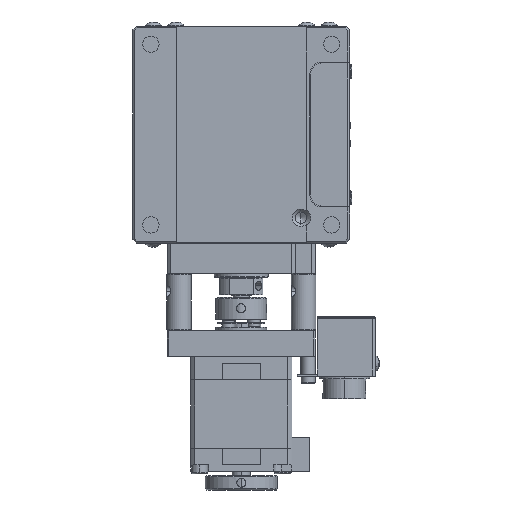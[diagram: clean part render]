
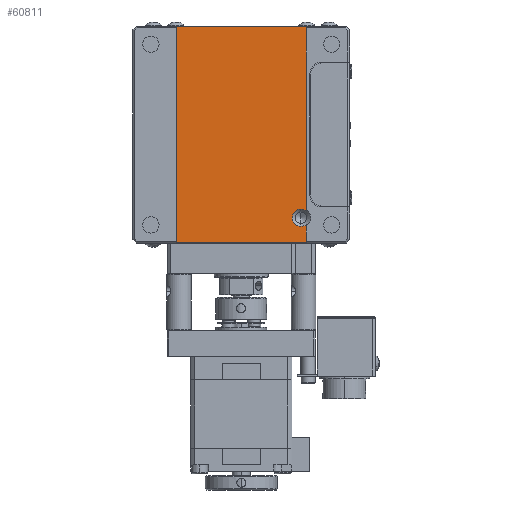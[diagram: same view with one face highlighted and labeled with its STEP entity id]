
A CAD part, front view. The second image highlights one B-rep face of the part: STEP entity #60811.
In plain terms, the highlighted planar face has unit normal (0, -1, 0).
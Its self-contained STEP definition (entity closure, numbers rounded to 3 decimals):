
#645 = CARTESIAN_POINT ( 'NONE',  ( 19.849, -13.358, 30. ) ) ;
#1823 = CARTESIAN_POINT ( 'NONE',  ( 18.349, -13.358, 39.4 ) ) ;
#2114 = EDGE_CURVE ( 'NONE', #61151, #28575, #63379, .T. ) ;
#3094 = DIRECTION ( 'NONE',  ( 0., 0., 1. ) ) ;
#3824 = LINE ( 'NONE', #63161, #31823 ) ;
#5888 = LINE ( 'NONE', #645, #33738 ) ;
#6183 = DIRECTION ( 'NONE',  ( 0., 1., 0. ) ) ;
#7289 = VERTEX_POINT ( 'NONE', #36541 ) ;
#8016 = CARTESIAN_POINT ( 'NONE',  ( 19.849, -13.358, 30. ) ) ;
#8457 = DIRECTION ( 'NONE',  ( 0., 1., 0. ) ) ;
#8858 = VECTOR ( 'NONE', #19956, 1000. ) ;
#11006 = ORIENTED_EDGE ( 'NONE', *, *, #24242, .T. ) ;
#11281 = EDGE_LOOP ( 'NONE', ( #61070, #29547, #23109, #56337, #58346, #44224, #64355, #11006 ) ) ;
#11911 = CARTESIAN_POINT ( 'NONE',  ( 19.849, -13.358, 30.2 ) ) ;
#14190 = FACE_OUTER_BOUND ( 'NONE', #11281, .T. ) ;
#14346 = LINE ( 'NONE', #36522, #8858 ) ;
#15208 = CARTESIAN_POINT ( 'NONE',  ( 18.349, -13.358, 37. ) ) ;
#16899 = CARTESIAN_POINT ( 'NONE',  ( 19.849, -13.358, 35.127 ) ) ;
#17882 = VERTEX_POINT ( 'NONE', #21751 ) ;
#19956 = DIRECTION ( 'NONE',  ( 0., 0., -1. ) ) ;
#20379 = CIRCLE ( 'NONE', #47540, 2.4 ) ;
#21751 = CARTESIAN_POINT ( 'NONE',  ( 19.849, -13.358, 89.8 ) ) ;
#23109 = ORIENTED_EDGE ( 'NONE', *, *, #36711, .T. ) ;
#24242 = EDGE_CURVE ( 'NONE', #35060, #7289, #14346, .T. ) ;
#24689 = DIRECTION ( 'NONE',  ( 0., 0., -1. ) ) ;
#26491 = AXIS2_PLACEMENT_3D ( 'NONE', #15208, #35196, #35844 ) ;
#27514 = CIRCLE ( 'NONE', #26491, 2.4 ) ;
#27721 = EDGE_CURVE ( 'NONE', #7289, #50778, #3824, .T. ) ;
#28473 = DIRECTION ( 'NONE',  ( 0., 0., -1. ) ) ;
#28575 = VERTEX_POINT ( 'NONE', #60250 ) ;
#29547 = ORIENTED_EDGE ( 'NONE', *, *, #49321, .T. ) ;
#30487 = DIRECTION ( 'NONE',  ( 0., 0., -1. ) ) ;
#31477 = CARTESIAN_POINT ( 'NONE',  ( 18.349, -13.358, 34.6 ) ) ;
#31823 = VECTOR ( 'NONE', #43810, 1000. ) ;
#32836 = EDGE_CURVE ( 'NONE', #28575, #17882, #5888, .T. ) ;
#32866 = VERTEX_POINT ( 'NONE', #31477 ) ;
#33738 = VECTOR ( 'NONE', #45871, 1000. ) ;
#34195 = CARTESIAN_POINT ( 'NONE',  ( 1.849, -13.358, 30. ) ) ;
#34848 = DIRECTION ( 'NONE',  ( -1., 0., 0. ) ) ;
#34865 = EDGE_CURVE ( 'NONE', #32866, #61151, #27514, .T. ) ;
#35060 = VERTEX_POINT ( 'NONE', #62984 ) ;
#35196 = DIRECTION ( 'NONE',  ( 0., 1., 0. ) ) ;
#35844 = DIRECTION ( 'NONE',  ( 0., 0., -1. ) ) ;
#36522 = CARTESIAN_POINT ( 'NONE',  ( -16.151, -13.358, 30. ) ) ;
#36541 = CARTESIAN_POINT ( 'NONE',  ( -16.151, -13.358, 30.2 ) ) ;
#36711 = EDGE_CURVE ( 'NONE', #49065, #32866, #20379, .T. ) ;
#39087 = PLANE ( 'NONE',  #50302 ) ;
#39736 = LINE ( 'NONE', #43995, #40137 ) ;
#40137 = VECTOR ( 'NONE', #34848, 1000. ) ;
#40377 = DIRECTION ( 'NONE',  ( 0., -1., 0. ) ) ;
#40600 = CARTESIAN_POINT ( 'NONE',  ( 18.349, -13.358, 37. ) ) ;
#43810 = DIRECTION ( 'NONE',  ( 1., 0., 0. ) ) ;
#43995 = CARTESIAN_POINT ( 'NONE',  ( 1.849, -13.358, 89.8 ) ) ;
#44224 = ORIENTED_EDGE ( 'NONE', *, *, #32836, .T. ) ;
#45871 = DIRECTION ( 'NONE',  ( 0., 0., 1. ) ) ;
#47540 = AXIS2_PLACEMENT_3D ( 'NONE', #40600, #6183, #30487 ) ;
#49065 = VERTEX_POINT ( 'NONE', #16899 ) ;
#49321 = EDGE_CURVE ( 'NONE', #50778, #49065, #57799, .T. ) ;
#50302 = AXIS2_PLACEMENT_3D ( 'NONE', #34195, #40377, #24689 ) ;
#50778 = VERTEX_POINT ( 'NONE', #11911 ) ;
#53323 = CARTESIAN_POINT ( 'NONE',  ( 18.349, -13.358, 37. ) ) ;
#54214 = VECTOR ( 'NONE', #3094, 1000. ) ;
#56337 = ORIENTED_EDGE ( 'NONE', *, *, #34865, .T. ) ;
#57799 = LINE ( 'NONE', #8016, #54214 ) ;
#58346 = ORIENTED_EDGE ( 'NONE', *, *, #2114, .T. ) ;
#59155 = AXIS2_PLACEMENT_3D ( 'NONE', #53323, #8457, #28473 ) ;
#60250 = CARTESIAN_POINT ( 'NONE',  ( 19.849, -13.358, 38.873 ) ) ;
#60811 = ADVANCED_FACE ( 'NONE', ( #14190 ), #39087, .T. ) ;
#61070 = ORIENTED_EDGE ( 'NONE', *, *, #27721, .T. ) ;
#61151 = VERTEX_POINT ( 'NONE', #1823 ) ;
#62984 = CARTESIAN_POINT ( 'NONE',  ( -16.151, -13.358, 89.8 ) ) ;
#63161 = CARTESIAN_POINT ( 'NONE',  ( 1.849, -13.358, 30.2 ) ) ;
#63379 = CIRCLE ( 'NONE', #59155, 2.4 ) ;
#64030 = EDGE_CURVE ( 'NONE', #17882, #35060, #39736, .T. ) ;
#64355 = ORIENTED_EDGE ( 'NONE', *, *, #64030, .T. ) ;
